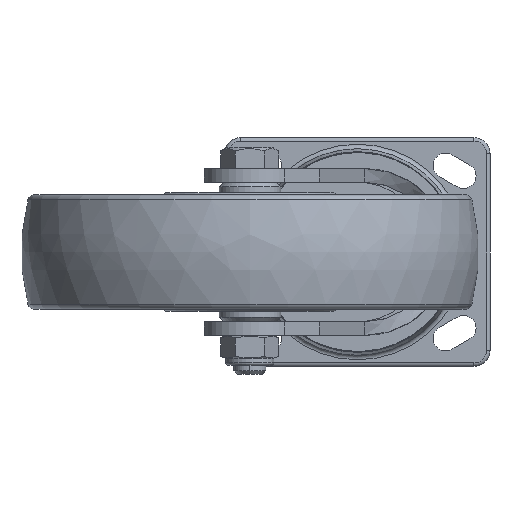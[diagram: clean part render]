
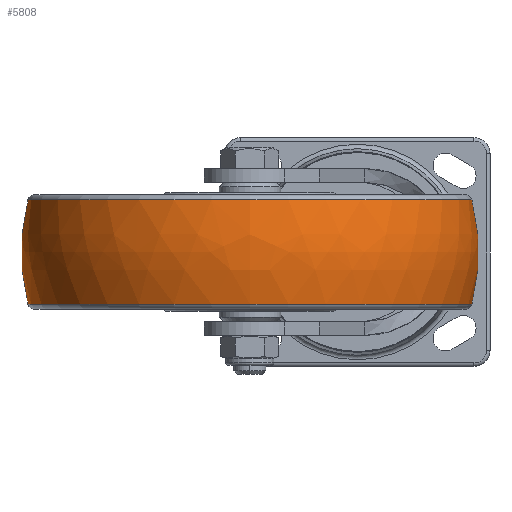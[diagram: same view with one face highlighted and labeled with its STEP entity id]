
A CAD part, front view. The second image highlights one B-rep face of the part: STEP entity #5808.
In plain terms, the highlighted free-form (B-spline) face has degree [3, 3] with [7, 4] control points.
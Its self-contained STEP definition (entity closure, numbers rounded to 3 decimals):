
#3628=CARTESIAN_POINT('',(0.,10.001,0.));
#3629=DIRECTION('',(0.,0.,1.));
#3630=DIRECTION('',(0.253,0.967,0.));
#3631=AXIS2_PLACEMENT_3D('',#3628,#3629,#3630);
#3633=CARTESIAN_POINT('',(0.,-10.001,0.));
#3634=DIRECTION('',(0.,0.,-1.));
#3635=DIRECTION('',(0.253,-0.967,0.));
#3636=AXIS2_PLACEMENT_3D('',#3633,#3634,#3635);
#3638=CARTESIAN_POINT('',(22.759,0.,0.));
#3639=DIRECTION('',(-1.,0.,0.));
#3640=DIRECTION('',(0.,1.,0.));
#3641=AXIS2_PLACEMENT_3D('',#3638,#3639,#3640);
#3653=CARTESIAN_POINT('',(-22.759,0.,0.));
#3654=DIRECTION('',(-1.,0.,0.));
#3655=DIRECTION('',(0.,1.,0.));
#3656=AXIS2_PLACEMENT_3D('',#3653,#3654,#3655);
#5481=CARTESIAN_POINT('',(22.759,97.076,
0.));
#5482=CARTESIAN_POINT('',(-22.759,97.076,
0.));
#5483=VERTEX_POINT('',#5481);
#5484=VERTEX_POINT('',#5482);
#5505=CARTESIAN_POINT('',(22.759,-97.076,
0.));
#5506=CARTESIAN_POINT('',(-22.759,-97.076,
0.));
#5507=VERTEX_POINT('',#5505);
#5508=VERTEX_POINT('',#5506);
#5771=CARTESIAN_POINT('',(-23.648,-96.648,
6.081));
#5772=CARTESIAN_POINT('',(-8.072,-100.881,
6.347));
#5773=CARTESIAN_POINT('',(8.072,-100.881,6.347));
#5774=CARTESIAN_POINT('',(23.648,-96.648,6.081));
#5775=CARTESIAN_POINT('',(-23.648,-100.39,
-53.396));
#5776=CARTESIAN_POINT('',(-8.072,-104.787,
-55.735));
#5777=CARTESIAN_POINT('',(8.072,-104.787,
-55.735));
#5778=CARTESIAN_POINT('',(23.648,-100.39,
-53.396));
#5779=CARTESIAN_POINT('',(-23.648,-59.595,
-96.839));
#5780=CARTESIAN_POINT('',(-8.072,-62.205,
-101.081));
#5781=CARTESIAN_POINT('',(8.072,-62.205,
-101.081));
#5782=CARTESIAN_POINT('',(23.648,-59.595,
-96.839));
#5783=CARTESIAN_POINT('',(-23.648,0.,
-96.839));
#5784=CARTESIAN_POINT('',(-8.072,0.,-101.081));
#5785=CARTESIAN_POINT('',(8.072,0.,
-101.081));
#5786=CARTESIAN_POINT('',(23.648,0.,-96.839));
#5787=CARTESIAN_POINT('',(-23.648,59.595,
-96.839));
#5788=CARTESIAN_POINT('',(-8.072,62.205,
-101.081));
#5789=CARTESIAN_POINT('',(8.072,62.205,-101.081));
#5790=CARTESIAN_POINT('',(23.648,59.595,-96.839));
#5791=CARTESIAN_POINT('',(-23.648,100.39,
-53.396));
#5792=CARTESIAN_POINT('',(-8.072,104.787,
-55.735));
#5793=CARTESIAN_POINT('',(8.072,104.787,-55.735));
#5794=CARTESIAN_POINT('',(23.648,100.39,-53.396));
#5795=CARTESIAN_POINT('',(-23.648,96.648,6.081));
#5796=CARTESIAN_POINT('',(-8.072,100.881,6.347));
#5797=CARTESIAN_POINT('',(8.072,100.881,6.347));
#5798=CARTESIAN_POINT('',(23.648,96.648,6.081));
#5799=(BOUNDED_SURFACE()B_SPLINE_SURFACE(3,3,((#5771,#5772,#5773,#5774),(#5775,
#5776,#5777,#5778),(#5779,#5780,#5781,#5782),(#5783,#5784,#5785,#5786),(#5787,
#5788,#5789,#5790),(#5791,#5792,#5793,#5794),(#5795,#5796,#5797,#5798)),
.UNSPECIFIED.,.F.,.F.,.F.)B_SPLINE_SURFACE_WITH_KNOTS((4,3,4),(4,4),(0.,1.,
2.),(0.,1.),.UNSPECIFIED.)GEOMETRIC_REPRESENTATION_ITEM()RATIONAL_B_SPLINE_SURFACE(((1.208,1.18,1.18,1.208),(
0.954,0.932,0.932,0.954),(
0.954,0.932,0.932,0.954),(
1.208,1.18,1.18,1.208),(
0.954,0.932,0.932,0.954),(
0.954,0.932,0.932,0.954),(
1.208,1.18,1.18,1.208)))REPRESENTATION_ITEM('')SURFACE());
#5800=ORIENTED_EDGE('',*,*,#5760,.T.);
#5802=ORIENTED_EDGE('',*,*,#5801,.T.);
#5803=ORIENTED_EDGE('',*,*,#5764,.F.);
#5805=ORIENTED_EDGE('',*,*,#5804,.F.);
#5806=EDGE_LOOP('',(#5800,#5802,#5803,#5805));
#5807=FACE_OUTER_BOUND('',#5806,.F.);
#3632=CIRCLE('',#3631,90.);
#3637=CIRCLE('',#3636,90.);
#3642=CIRCLE('',#3641,97.076);
#3657=CIRCLE('',#3656,97.076);
#5760=EDGE_CURVE('',#5483,#5484,#3632,.T.);
#5764=EDGE_CURVE('',#5507,#5508,#3637,.T.);
#5801=EDGE_CURVE('',#5484,#5508,#3657,.T.);
#5804=EDGE_CURVE('',#5483,#5507,#3642,.T.);
#5808=ADVANCED_FACE('',(#5807),#5799,.T.);
